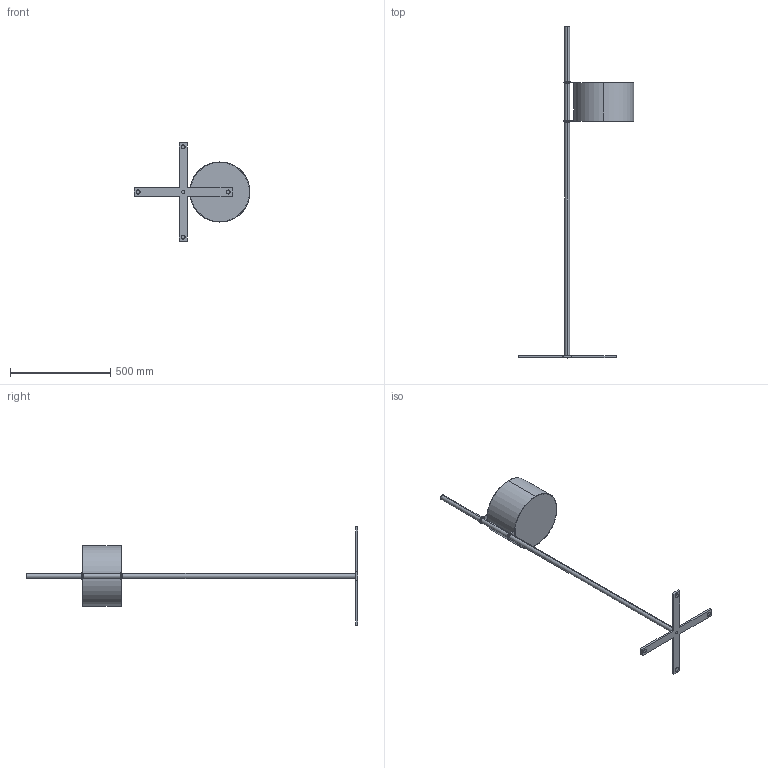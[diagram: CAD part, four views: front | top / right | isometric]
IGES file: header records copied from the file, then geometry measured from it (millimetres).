
Start section: SolidWorks IGES file using analytic representation for surfaces
Global section: file name: C:\SANTACOLE_PDM\Proyectos Catálogo\PROD-P23-002 -- TMA\6_Técnico comercial\3D\TMA_pie.IGS; native system: SolidWorks 2024; preprocessor: SolidWorks 2024; author: clara.galimany; date: 260709.153943; units: millimetre
Bounding box: 578.39 x 1657 x 490 mm (x, y, z)
Surface area: 558334.8 mm2 (no closed solid volume)
Topology: 0 solids, 0 shells, 124 faces, 2080 edges, 2080 vertices
Faces by surface type: bspline 78, revolution 46
